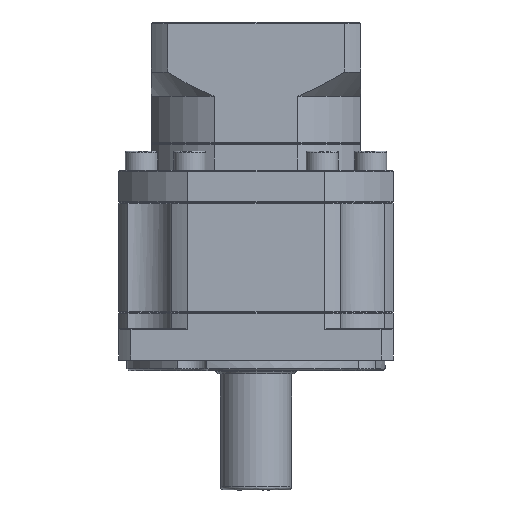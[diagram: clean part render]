
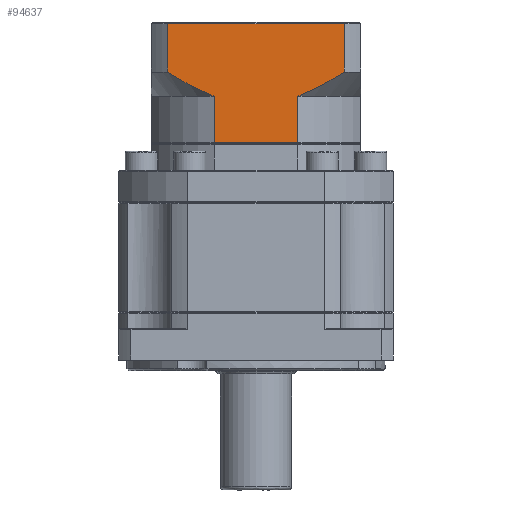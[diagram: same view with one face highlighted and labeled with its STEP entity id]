
A CAD part, front view. The second image highlights one B-rep face of the part: STEP entity #94637.
In plain terms, the highlighted planar face has unit normal (0, -1, 0).
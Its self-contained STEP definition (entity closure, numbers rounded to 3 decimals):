
#4524 = DIRECTION ( 'NONE',  ( -1., 0., 0. ) ) ;
#9944 = CARTESIAN_POINT ( 'NONE',  ( -75.344, 15.655, -27.729 ) ) ;
#12167 = CARTESIAN_POINT ( 'NONE',  ( -34.967, 15.655, -5.818 ) ) ;
#12262 = LINE ( 'NONE', #75384, #89271 ) ;
#13082 = AXIS2_PLACEMENT_3D ( 'NONE', #34799, #75206, #107437 ) ;
#14382 = CARTESIAN_POINT ( 'NONE',  ( -89.74, 15.655, 9.182 ) ) ;
#15266 = VERTEX_POINT ( 'NONE', #95056 ) ;
#15642 = PLANE ( 'NONE',  #13082 ) ;
#17778 = LINE ( 'NONE', #14382, #44961 ) ;
#18133 = CARTESIAN_POINT ( 'NONE',  ( -49.363, 15.655, -13.318 ) ) ;
#19041 = EDGE_CURVE ( 'NONE', #70075, #15266, #34807, .T. ) ;
#19882 = ORIENTED_EDGE ( 'NONE', *, *, #73517, .F. ) ;
#23556 = CARTESIAN_POINT ( 'NONE',  ( -89.74, 15.655, 9.182 ) ) ;
#23994 = EDGE_CURVE ( 'NONE', #118377, #66106, #49984, .T. ) ;
#28120 = CARTESIAN_POINT ( 'NONE',  ( -34.967, 15.655, 9.182 ) ) ;
#28392 = DIRECTION ( 'NONE',  ( 0., 0., 1. ) ) ;
#32649 = LINE ( 'NONE', #72917, #106369 ) ;
#34799 = CARTESIAN_POINT ( 'NONE',  ( -29.854, 15.655, 9.682 ) ) ;
#34807 = LINE ( 'NONE', #89420, #121368 ) ;
#36441 = DIRECTION ( 'NONE',  ( 0., 0., 1. ) ) ;
#38815 = B_SPLINE_CURVE_WITH_KNOTS ( 'NONE', 3,
 ( #125870, #73012, #83429, #83872, #95895, #127643, #116833, #106184, #77075, #55085 ),
 .UNSPECIFIED., .F., .F.,
 ( 4, 2, 2, 2, 4 ),
 ( 0.101, 0.104, 0.106, 0.11, 0.118 ),
 .UNSPECIFIED. ) ;
#42899 = ORIENTED_EDGE ( 'NONE', *, *, #23994, .F. ) ;
#44961 = VECTOR ( 'NONE', #4524, 1000. ) ;
#45197 = FACE_OUTER_BOUND ( 'NONE', #120093, .T. ) ;
#46275 = EDGE_CURVE ( 'NONE', #70075, #91611, #100266, .T. ) ;
#46358 = CARTESIAN_POINT ( 'NONE',  ( -89.74, 15.655, -8.318 ) ) ;
#48066 = EDGE_CURVE ( 'NONE', #85102, #113573, #66797, .T. ) ;
#48477 = EDGE_CURVE ( 'NONE', #82590, #118377, #12262, .T. ) ;
#49984 = B_SPLINE_CURVE_WITH_KNOTS ( 'NONE', 3,
 ( #115368, #53195, #124874, #63502, #54066, #54516, #64371, #125721 ),
 .UNSPECIFIED., .F., .F.,
 ( 4, 2, 2, 4 ),
 ( 0.059, 0.063, 0.067, 0.075 ),
 .UNSPECIFIED. ) ;
#50203 = CARTESIAN_POINT ( 'NONE',  ( -49.363, 15.655, -27.729 ) ) ;
#53195 = CARTESIAN_POINT ( 'NONE',  ( -36.106, 15.655, -6.551 ) ) ;
#53704 = ORIENTED_EDGE ( 'NONE', *, *, #48066, .F. ) ;
#54066 = CARTESIAN_POINT ( 'NONE',  ( -40.779, 15.655, -9.321 ) ) ;
#54321 = DIRECTION ( 'NONE',  ( 0., 0., -1. ) ) ;
#54516 = CARTESIAN_POINT ( 'NONE',  ( -44.373, 15.655, -11.231 ) ) ;
#55085 = CARTESIAN_POINT ( 'NONE',  ( -89.74, 15.655, -5.818 ) ) ;
#58453 = ORIENTED_EDGE ( 'NONE', *, *, #79354, .F. ) ;
#59716 = EDGE_CURVE ( 'NONE', #82590, #113573, #17778, .T. ) ;
#63502 = CARTESIAN_POINT ( 'NONE',  ( -39.593, 15.655, -8.651 ) ) ;
#64371 = CARTESIAN_POINT ( 'NONE',  ( -46.824, 15.655, -12.375 ) ) ;
#66106 = VERTEX_POINT ( 'NONE', #18133 ) ;
#66797 = LINE ( 'NONE', #46358, #108422 ) ;
#70075 = VERTEX_POINT ( 'NONE', #9944 ) ;
#72917 = CARTESIAN_POINT ( 'NONE',  ( -49.363, 15.655, -13.318 ) ) ;
#73012 = CARTESIAN_POINT ( 'NONE',  ( -75.987, 15.655, -13.079 ) ) ;
#73517 = EDGE_CURVE ( 'NONE', #66106, #91611, #32649, .T. ) ;
#75206 = DIRECTION ( 'NONE',  ( 0., 1., 0. ) ) ;
#75384 = CARTESIAN_POINT ( 'NONE',  ( -34.967, 15.655, -8.318 ) ) ;
#77075 = CARTESIAN_POINT ( 'NONE',  ( -87.471, 15.655, -7.28 ) ) ;
#78548 = ORIENTED_EDGE ( 'NONE', *, *, #59716, .T. ) ;
#79354 = EDGE_CURVE ( 'NONE', #15266, #85102, #38815, .T. ) ;
#82590 = VERTEX_POINT ( 'NONE', #28120 ) ;
#83429 = CARTESIAN_POINT ( 'NONE',  ( -76.625, 15.655, -12.827 ) ) ;
#83483 = DIRECTION ( 'NONE',  ( 1., 0., 0. ) ) ;
#83872 = CARTESIAN_POINT ( 'NONE',  ( -77.886, 15.655, -12.301 ) ) ;
#85102 = VERTEX_POINT ( 'NONE', #123220 ) ;
#89271 = VECTOR ( 'NONE', #54321, 1000. ) ;
#89420 = CARTESIAN_POINT ( 'NONE',  ( -75.344, 15.655, -13.318 ) ) ;
#91611 = VERTEX_POINT ( 'NONE', #50203 ) ;
#93748 = CARTESIAN_POINT ( 'NONE',  ( -29.854, 15.655, -27.729 ) ) ;
#94637 = ADVANCED_FACE ( 'NONE', ( #45197 ), #15642, .F. ) ;
#95056 = CARTESIAN_POINT ( 'NONE',  ( -75.344, 15.655, -13.318 ) ) ;
#95895 = CARTESIAN_POINT ( 'NONE',  ( -78.51, 15.655, -12.027 ) ) ;
#100266 = LINE ( 'NONE', #93748, #130681 ) ;
#100693 = ORIENTED_EDGE ( 'NONE', *, *, #46275, .T. ) ;
#104303 = DIRECTION ( 'NONE',  ( 0., 0., -1. ) ) ;
#106184 = CARTESIAN_POINT ( 'NONE',  ( -85.156, 15.655, -8.668 ) ) ;
#106369 = VECTOR ( 'NONE', #104303, 1000. ) ;
#107437 = DIRECTION ( 'NONE',  ( -1., 0., 0. ) ) ;
#108422 = VECTOR ( 'NONE', #36441, 1000. ) ;
#113573 = VERTEX_POINT ( 'NONE', #23556 ) ;
#115368 = CARTESIAN_POINT ( 'NONE',  ( -34.967, 15.655, -5.818 ) ) ;
#116833 = CARTESIAN_POINT ( 'NONE',  ( -81.575, 15.655, -10.572 ) ) ;
#118377 = VERTEX_POINT ( 'NONE', #12167 ) ;
#120093 = EDGE_LOOP ( 'NONE', ( #131307, #78548, #53704, #58453, #124022, #100693, #19882, #42899 ) ) ;
#121368 = VECTOR ( 'NONE', #28392, 1000. ) ;
#123220 = CARTESIAN_POINT ( 'NONE',  ( -89.74, 15.655, -5.818 ) ) ;
#124022 = ORIENTED_EDGE ( 'NONE', *, *, #19041, .F. ) ;
#124874 = CARTESIAN_POINT ( 'NONE',  ( -37.257, 15.655, -7.267 ) ) ;
#125721 = CARTESIAN_POINT ( 'NONE',  ( -49.363, 15.655, -13.318 ) ) ;
#125870 = CARTESIAN_POINT ( 'NONE',  ( -75.344, 15.655, -13.318 ) ) ;
#127643 = CARTESIAN_POINT ( 'NONE',  ( -80.363, 15.655, -11.177 ) ) ;
#130681 = VECTOR ( 'NONE', #83483, 1000. ) ;
#131307 = ORIENTED_EDGE ( 'NONE', *, *, #48477, .F. ) ;
